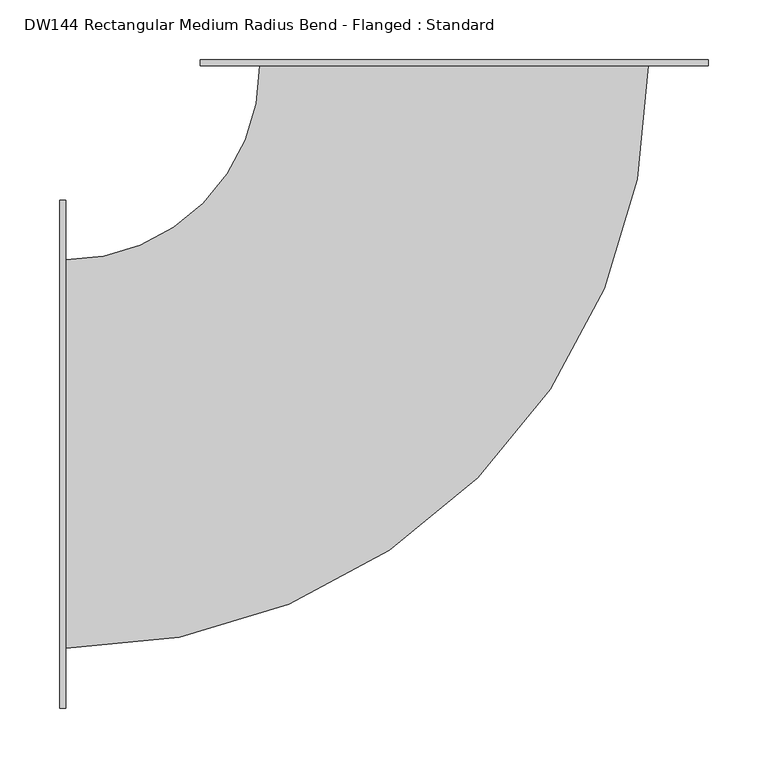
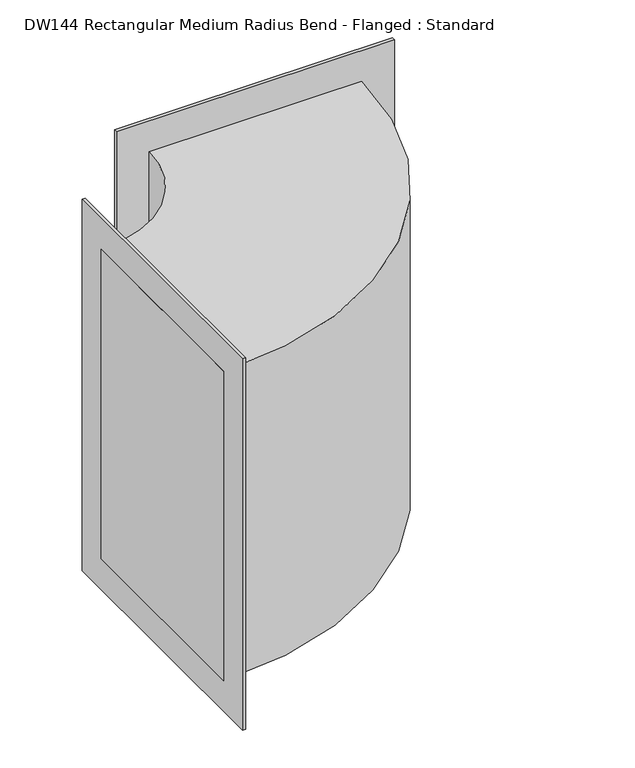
"""IFC4 building model written with IfcOpenShell, lengths in millimetres: duct fitting geometry, DW144 Rectangular Medium Radius Bend - Flanged : Standard."""

import ifcopenshell
import ifcopenshell.guid

model = None  # the IFC model being written
_history = None  # IfcOwnerHistory: only IFC2X3 demands one
_inside = {}  # id of a spatial element -> (the spatial element, [elements in it])
_under = {}  # id of a project, library or spatial element -> (it, [spatial elements below it])
_declared = {}  # id of a project -> (the project, [libraries it declares])
_typed = {}  # id of a type object -> (the type object, [elements of that type])
_made_of = {}  # id of a material, layer set ... -> (it, [elements and type objects made of it])


def new_model(schema):
    """Start an empty IFC model of exactly this schema.

    Asked for "IFC4X3", IfcOpenShell would pick the latest addendum, in which some entities
    have other attributes; the version numbers below select the first issue.
    IFC2X3 requires an IfcOwnerHistory on every rooted entity: one is made here for all.
    """
    global model, _history
    if schema == "IFC4X3":
        model = ifcopenshell.file(schema_version=(4, 3, 0, 0))
    else:
        model = ifcopenshell.file(schema=schema)
    _inside.clear()
    _under.clear()
    _declared.clear()
    _typed.clear()
    _made_of.clear()
    _history = None
    if model.schema == "IFC2X3":
        org = make("IfcOrganization", Name="unknown")
        user = make(
            "IfcPersonAndOrganization",
            ThePerson=make("IfcPerson", FamilyName="unknown"),
            TheOrganization=org,
        )
        app = make(
            "IfcApplication",
            ApplicationDeveloper=org,
            Version="unknown",
            ApplicationFullName="unknown",
            ApplicationIdentifier="unknown",
        )
        _history = make(
            "IfcOwnerHistory",
            OwningUser=user,
            OwningApplication=app,
            ChangeAction="ADDED",
            CreationDate=0,
        )
    return model


def make(cls, **values):
    """One entity of the class cls with the attributes given. An attribute that is None is left unset."""
    return model.create_entity(
        cls, **{name: value for name, value in values.items() if value is not None}
    )


def rooted(cls, **values):
    """An entity with a GlobalId (a new one), such as an element, a storey or a relation."""
    return make(cls, GlobalId=ifcopenshell.guid.new(), OwnerHistory=_history, **values)


def si_unit(unit_type, name, prefix=None):
    """IfcSIUnit, for example si_unit("LENGTHUNIT", "METRE", prefix="MILLI")."""
    return make("IfcSIUnit", UnitType=unit_type, Prefix=prefix, Name=name)


def assignment(units):
    """IfcUnitAssignment: the units of a project."""
    return None if units is None else make("IfcUnitAssignment", Units=units)


def point(xyz):
    """IfcCartesianPoint."""
    return None if xyz is None else make("IfcCartesianPoint", Coordinates=xyz)


def direction(xyz):
    """IfcDirection."""
    return None if xyz is None else make("IfcDirection", DirectionRatios=xyz)


def frame(location, z_axis=None, x_axis=None):
    """IfcAxis2Placement3D, a coordinate frame: its origin and axes. An axis left out is left unset."""
    return make(
        "IfcAxis2Placement3D",
        Location=point(location),
        Axis=direction(z_axis),
        RefDirection=direction(x_axis),
    )


def frame_2d(location, x_axis=None):
    """IfcAxis2Placement2D, a coordinate frame in the plane: its origin and x axis."""
    return make(
        "IfcAxis2Placement2D", Location=point(location), RefDirection=direction(x_axis)
    )


def origin():
    """The frame at (0, 0, 0) with its axes left unset."""
    return frame((0.0, 0.0, 0.0))


def place(relative_to, where):
    """IfcLocalPlacement: puts the frame where relative to a parent placement (None: the world)."""
    return make(
        "IfcLocalPlacement", PlacementRelTo=relative_to, RelativePlacement=where
    )


def context(
    kind, dimensions, precision=None, world=None, true_north=None, identifier=None
):
    """IfcGeometricRepresentationContext, for example the 3D "Model" context."""
    return make(
        "IfcGeometricRepresentationContext",
        ContextIdentifier=identifier,
        ContextType=kind,
        CoordinateSpaceDimension=dimensions,
        Precision=precision,
        WorldCoordinateSystem=world,
        TrueNorth=true_north,
    )


def project(units=None, contexts=None):
    """IfcProject with its units and contexts."""
    return rooted(
        "IfcProject",
        Name="project",
        RepresentationContexts=contexts,
        UnitsInContext=assignment(units),
    )


def spatial(cls, under=None, at=None, **own):
    """A site, building, storey or space (cls), placed at a placement, below another one or the project."""
    s = rooted(cls, ObjectPlacement=at, **own)
    if under is not None:
        _under.setdefault(under.id(), (under, []))[1].append(s)
    return s


def polyline(points):
    """IfcPolyline through the points."""
    return make("IfcPolyline", Points=[point(p) for p in points])


def circle_curve(where, radius):
    """IfcCircle in the frame where."""
    return make("IfcCircle", Position=where, Radius=radius)


def trimmed(basis, trim1, trim2, sense, master):
    """IfcTrimmedCurve: the piece of a basis curve between two trims."""
    return make(
        "IfcTrimmedCurve",
        BasisCurve=basis,
        Trim1=trim1,
        Trim2=trim2,
        SenseAgreement=sense,
        MasterRepresentation=master,
    )


def segment(curve, same_sense, transition):
    """IfcCompositeCurveSegment."""
    return make(
        "IfcCompositeCurveSegment",
        Transition=transition,
        SameSense=same_sense,
        ParentCurve=curve,
    )


def composite_curve(segments, self_intersect=None):
    """IfcCompositeCurve: segments joined end to end."""
    return make("IfcCompositeCurve", Segments=segments, SelfIntersect=self_intersect)


def outline(outer, holes=None, kind="AREA"):
    """IfcArbitraryClosedProfileDef: a profile drawn as a closed curve; with holes, ...WithVoids."""
    if holes is None:
        return make("IfcArbitraryClosedProfileDef", ProfileType=kind, OuterCurve=outer)
    return make(
        "IfcArbitraryProfileDefWithVoids",
        ProfileType=kind,
        OuterCurve=outer,
        InnerCurves=holes,
    )


def extrude(swept, where, along, depth):
    """IfcExtrudedAreaSolid: the profile swept, set in the frame where, extruded along a direction by depth."""
    return make(
        "IfcExtrudedAreaSolid",
        SweptArea=swept,
        Position=where,
        ExtrudedDirection=direction(along),
        Depth=depth,
    )


def shape(context_of_items, identifier, shape_type, items):
    """IfcShapeRepresentation: the items that make up one representation, for example the "Body"."""
    return make(
        "IfcShapeRepresentation",
        ContextOfItems=context_of_items,
        RepresentationIdentifier=identifier,
        RepresentationType=shape_type,
        Items=items,
    )


def source(mapping_origin, context_of_items, identifier, shape_type, items):
    """IfcRepresentationMap: a shape defined once, which mapped items show again and again."""
    return make(
        "IfcRepresentationMap",
        MappingOrigin=mapping_origin,
        MappedRepresentation=shape(context_of_items, identifier, shape_type, items),
    )


def transform(
    local_origin,
    x_axis=None,
    y_axis=None,
    z_axis=None,
    scale=None,
    scale2=None,
    scale3=None,
    uniform=True,
):
    """IfcCartesianTransformationOperator3D, or its non-uniform kind. x_axis, y_axis, z_axis: its Axis1, 2, 3."""
    if uniform:
        return make(
            "IfcCartesianTransformationOperator3D",
            Axis1=direction(x_axis),
            Axis2=direction(y_axis),
            LocalOrigin=point(local_origin),
            Scale=scale,
            Axis3=direction(z_axis),
        )
    return make(
        "IfcCartesianTransformationOperator3DnonUniform",
        Axis1=direction(x_axis),
        Axis2=direction(y_axis),
        LocalOrigin=point(local_origin),
        Scale=scale,
        Axis3=direction(z_axis),
        Scale2=scale2,
        Scale3=scale3,
    )


def mapped(mapping_source, mapping_target):
    """IfcMappedItem: shows the shape of a source again, moved by a transform."""
    return make(
        "IfcMappedItem", MappingSource=mapping_source, MappingTarget=mapping_target
    )


def made_of(thing, what):
    """Note that an element or type object is made of a material, layer set ...; save() writes the relation."""
    if what is not None:
        _made_of.setdefault(what.id(), (what, []))[1].append(thing)
    return thing


def element(
    cls,
    number,
    at=None,
    inside=None,
    cuts=None,
    type_object=None,
    material=None,
    context=None,
    identifier="Body",
    shape_type=None,
    held_by="IfcProductDefinitionShape",
    body=None,
    shapes=None,
    **own,
):
    """One element of the class cls, such as IfcWall. Its Tag is "e" and its number.

    at: its placement. inside: the storey or other place that contains it. cuts: it is an
    opening in that element (IfcRelVoidsElement). A single representation is given by context,
    identifier, shape_type and body (its items); several are given by shapes. held_by: the class
    of the entity that holds the representations. save() writes the other relations.
    """
    e = rooted(cls, Tag="e%d" % number, ObjectPlacement=at, **own)
    if body is not None:
        shapes = [shape(context, identifier, shape_type, body)]
    if shapes is not None:
        e.Representation = make(held_by, Representations=shapes)
    if inside is not None:
        _inside.setdefault(inside.id(), (inside, []))[1].append(e)
    if cuts is not None:
        rooted(
            "IfcRelVoidsElement", RelatingBuildingElement=cuts, RelatedOpeningElement=e
        )
    if type_object is not None:
        _typed.setdefault(type_object.id(), (type_object, []))[1].append(e)
    return made_of(e, material)


def aggregate(whole, parts):
    """IfcRelAggregates: a whole, such as a stair, and the parts it consists of."""
    return rooted("IfcRelAggregates", RelatingObject=whole, RelatedObjects=parts)


def save(model, path):
    """Write the relations noted so far, then the file.

    IfcRelAggregates (storeys below a building ...), IfcRelContainedInSpatialStructure (elements
    in a storey), IfcRelDefinesByType, IfcRelAssociatesMaterial and IfcRelDeclares: one each for
    every whole, place, type object, material and project.
    """
    for whole, parts in _under.values():
        aggregate(whole, parts)
    for where, things in _inside.values():
        rooted(
            "IfcRelContainedInSpatialStructure",
            RelatedElements=things,
            RelatingStructure=where,
        )
    for kind, things in _typed.values():
        rooted("IfcRelDefinesByType", RelatedObjects=things, RelatingType=kind)
    for what, things in _made_of.values():
        rooted("IfcRelAssociatesMaterial", RelatedObjects=things, RelatingMaterial=what)
    for by, libraries in _declared.values():
        rooted("IfcRelDeclares", RelatingContext=by, RelatedDefinitions=libraries)
    model.write(path)


def dw144_rectangular_medium_radius_bend_flanged_standard_75187951(model_context):
    return source(origin(), model_context, "Body", "SweptSolid", [
        extrude(outline(composite_curve([segment(polyline([(-330.0, -162.5), (-330.0, 162.5), (-325.0, 162.5)]), True, "CONTINUOUS"), segment(trimmed(circle_curve(frame_2d((-325.0, 325.0)), 162.5), [point((-325.0, 162.5))], [point((-162.5, 325.0))], True, "CARTESIAN"), True, "CONTINUOUS"), segment(polyline([(-162.5, 325.0), (-162.5, 330.0), (162.5, 330.0), (162.5, 325.0)]), True, "CONTINUOUS"), segment(trimmed(circle_curve(frame_2d((-325.0, 325.0)), 487.5), [point((162.5, 325.0))], [point((-325.0, -162.5))], False, "CARTESIAN"), True, "CONTINUOUS"), segment(polyline([(-325.0, -162.5), (-330.0, -162.5)]), True, "CONTINUOUS")], self_intersect=False)), frame((0.0, 0.0, -250.0), z_axis=(0.0, 0.0, 1.0), x_axis=(1.0, 0.0, 0.0)), (0.0, 0.0, 1.0), 500.0),
        extrude(outline(polyline([(212.5, 325.0), (-212.5, 325.0), (-212.5, 330.0), (212.5, 330.0), (212.5, 325.0)])), frame((0.0, 0.0, -300.0), z_axis=(0.0, 0.0, 1.0), x_axis=(1.0, 0.0, 0.0)), (0.0, 0.0, 1.0), 600.0),
        extrude(outline(polyline([(-330.0, -212.5), (-330.0, 212.5), (-325.0, 212.5), (-325.0, -212.5), (-330.0, -212.5)])), frame((0.0, 0.0, -300.0), z_axis=(0.0, 0.0, 1.0), x_axis=(1.0, 0.0, 0.0)), (0.0, 0.0, 1.0), 600.0),
    ])


if __name__ == "__main__":
    model = new_model("IFC4")
    model_context = context("Model", 3, world=origin())
    ifc_project = project(units=[si_unit("LENGTHUNIT", "METRE", prefix="MILLI")], contexts=[model_context])
    site = spatial("IfcSite", under=ifc_project)
    building = spatial("IfcBuilding", under=site)
    placement = place(None, origin())
    dw144_rectangular_medium_radius_bend_flanged_standard_shape = dw144_rectangular_medium_radius_bend_flanged_standard_75187951(model_context)
    element("IfcDuctFitting", 1, ObjectType="DW144 Rectangular Medium Radius Bend - Flanged : Standard", at=placement, inside=building, context=model_context, shape_type="MappedRepresentation", body=[
        mapped(dw144_rectangular_medium_radius_bend_flanged_standard_shape, transform((0.0, 0.0, 0.0), x_axis=(1.0, 0.0, 0.0), y_axis=(0.0, 1.0, 0.0), z_axis=(0.0, 0.0, 1.0))),
    ])
    save(model, "model.ifc")
